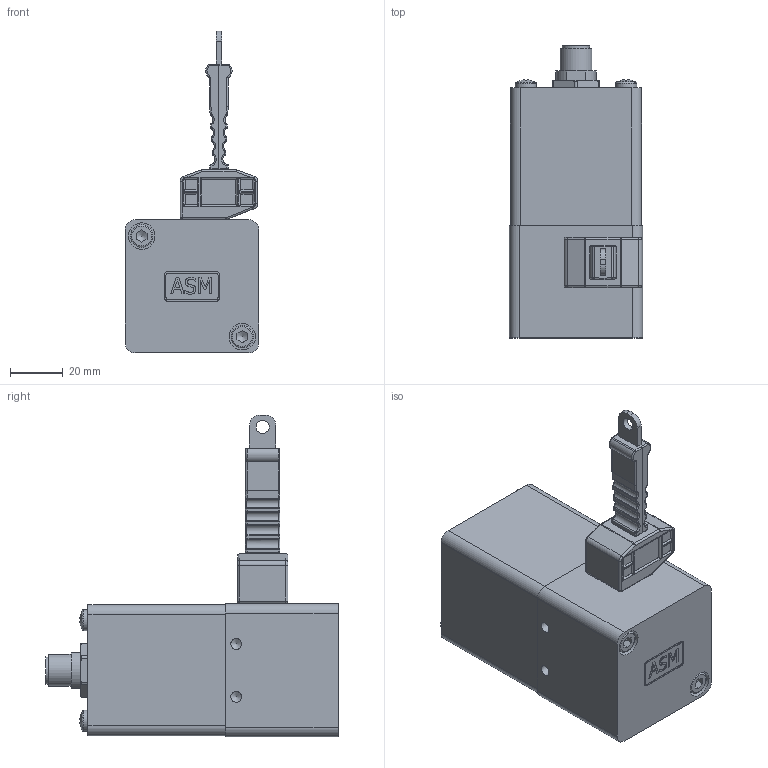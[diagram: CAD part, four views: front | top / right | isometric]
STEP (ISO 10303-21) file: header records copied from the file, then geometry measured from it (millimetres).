
FILE_DESCRIPTION((''),'2;1');
FILE_NAME('K:\Daten\Bauteil9.stp','2013-07-18T09:10:32',('kamp'),(''),'Autodesk Inventor 2008','Autodesk Inventor 2008','');
FILE_SCHEMA(('AUTOMOTIVE_DESIGN { 1 0 10303 214 1 1 1 1 }'));
Length unit declared in the file: millimetre
Products named in the file (1): Bauteil9
Bounding box: 50.35 x 110.4 x 121.65 mm (x, y, z)
Volume: 247498.8 mm3; surface area: 30056.9 mm2
Topology: 1 solids, 1 shells, 501 faces, 1280 edges, 785 vertices
Faces by surface type: plane 187, cylinder 137, bspline 127, sphere 39, cone 6, torus 5
Full cylindrical faces by diameter (mm): 1 x5, 8 x2, 8.3 x1, 8.5 x2, 10.4 x1, 12 x1
Entity records: 17935 total; most frequent: CARTESIAN_POINT 6267, ORIENTED_EDGE 2394, DIRECTION 2262, EDGE_CURVE 1197, AXIS2_PLACEMENT_3D 822, VERTEX_POINT 767, VECTOR 618, LINE 618
